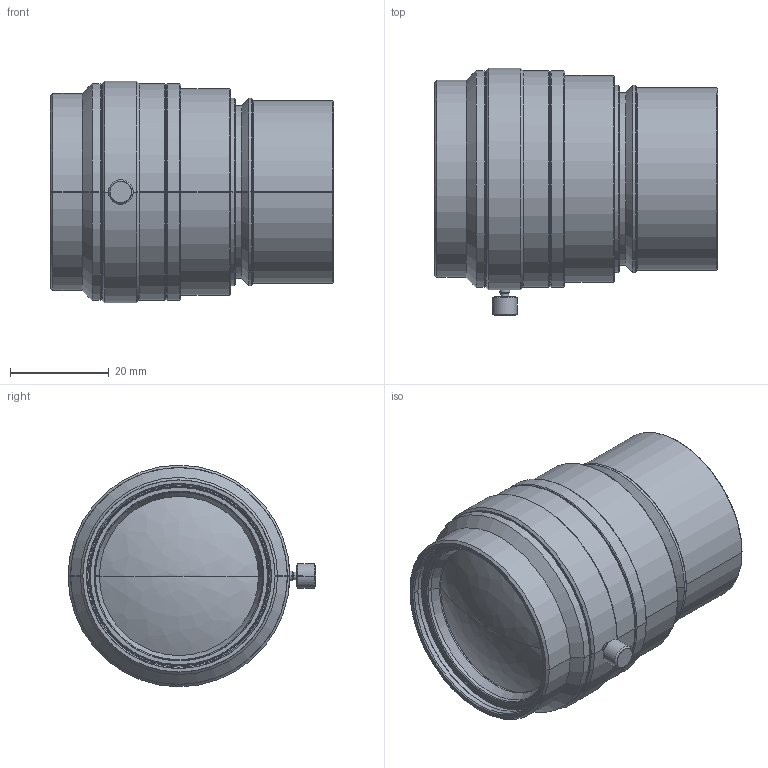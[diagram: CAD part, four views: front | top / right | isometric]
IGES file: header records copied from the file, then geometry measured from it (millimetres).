
Start section: SolidWorks IGES file using analytic representation for surfaces
Bounding box: 57.5 x 50.3 x 45 mm (x, y, z)
Surface area: 12097.8 mm2 (no closed solid volume)
Topology: 0 solids, 0 shells, 124 faces, 2352 edges, 2348 vertices
Faces by surface type: revolution 104, bspline 20
